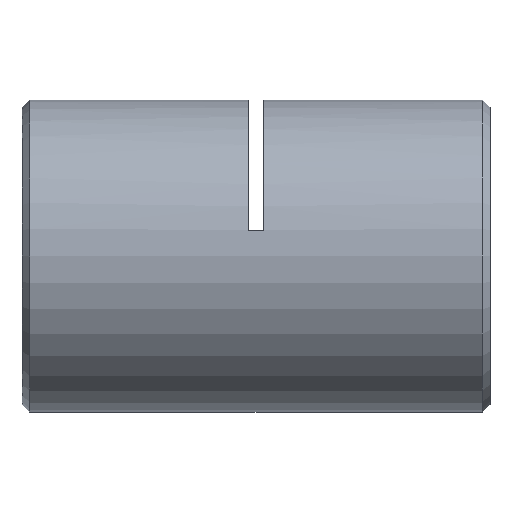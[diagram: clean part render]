
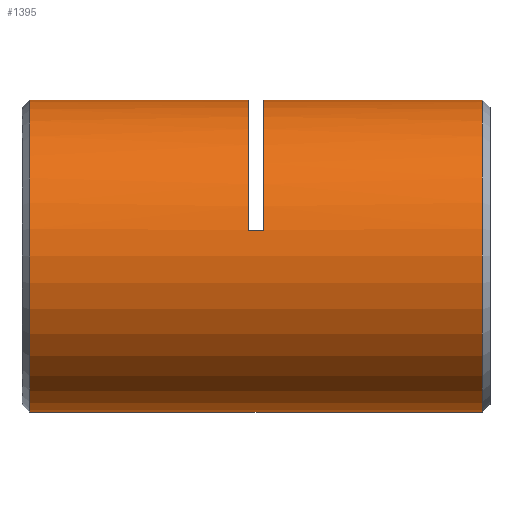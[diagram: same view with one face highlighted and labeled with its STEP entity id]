
A CAD part, left-side view. The second image highlights one B-rep face of the part: STEP entity #1395.
In plain terms, the highlighted cylindrical face has radius 10 mm (diameter 20 mm), a partial arc.
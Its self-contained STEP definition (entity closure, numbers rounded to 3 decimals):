
#9 = VERTEX_POINT ( 'NONE', #1312 ) ;
#283 = EDGE_CURVE ( 'NONE', #3445, #856, #2400, .T. ) ;
#304 = ORIENTED_EDGE ( 'NONE', *, *, #2097, .T. ) ;
#436 = ORIENTED_EDGE ( 'NONE', *, *, #3240, .F. ) ;
#672 = CARTESIAN_POINT ( 'NONE',  ( 0., 0., 10. ) ) ;
#827 = CIRCLE ( 'NONE', #3752, 10. ) ;
#828 = CARTESIAN_POINT ( 'NONE',  ( 0., 0.75, 0. ) ) ;
#851 = VERTEX_POINT ( 'NONE', #1382 ) ;
#856 = VERTEX_POINT ( 'NONE', #3131 ) ;
#871 = AXIS2_PLACEMENT_3D ( 'NONE', #2926, #3340, #1623 ) ;
#1086 = CARTESIAN_POINT ( 'NONE',  ( 0., 29.75, -10. ) ) ;
#1097 = ORIENTED_EDGE ( 'NONE', *, *, #2792, .F. ) ;
#1160 = DIRECTION ( 'NONE',  ( 0., 1., 0. ) ) ;
#1165 = CIRCLE ( 'NONE', #3870, 10. ) ;
#1204 = CARTESIAN_POINT ( 'NONE',  ( 0., 0., 10. ) ) ;
#1265 = DIRECTION ( 'NONE',  ( 0., 0., 1. ) ) ;
#1312 = CARTESIAN_POINT ( 'NONE',  ( 0., 0.75, -10. ) ) ;
#1335 = DIRECTION ( 'NONE',  ( 0., -1., 0. ) ) ;
#1352 = DIRECTION ( 'NONE',  ( 0., 0., -1. ) ) ;
#1382 = CARTESIAN_POINT ( 'NONE',  ( 0., 29.75, 10. ) ) ;
#1395 = ADVANCED_FACE ( 'NONE', ( #4907 ), #4228, .T. ) ;
#1482 = VECTOR ( 'NONE', #1608, 1000. ) ;
#1517 = CARTESIAN_POINT ( 'NONE',  ( 0., 14.75, 0. ) ) ;
#1526 = ORIENTED_EDGE ( 'NONE', *, *, #2230, .T. ) ;
#1608 = DIRECTION ( 'NONE',  ( 0., 1., 0. ) ) ;
#1623 = DIRECTION ( 'NONE',  ( 0., 0., 1. ) ) ;
#1722 = VERTEX_POINT ( 'NONE', #3562 ) ;
#1770 = LINE ( 'NONE', #672, #3213 ) ;
#1849 = VECTOR ( 'NONE', #1160, 1000. ) ;
#1910 = DIRECTION ( 'NONE',  ( 0., 0., 1. ) ) ;
#2097 = EDGE_CURVE ( 'NONE', #3023, #851, #1770, .T. ) ;
#2230 = EDGE_CURVE ( 'NONE', #9, #3445, #3623, .T. ) ;
#2400 = LINE ( 'NONE', #1204, #1849 ) ;
#2647 = CARTESIAN_POINT ( 'NONE',  ( 0., 15.75, 10. ) ) ;
#2792 = EDGE_CURVE ( 'NONE', #3741, #856, #1165, .T. ) ;
#2926 = CARTESIAN_POINT ( 'NONE',  ( 0., 0., 0. ) ) ;
#3023 = VERTEX_POINT ( 'NONE', #2647 ) ;
#3046 = ORIENTED_EDGE ( 'NONE', *, *, #4622, .T. ) ;
#3131 = CARTESIAN_POINT ( 'NONE',  ( 0., 14.75, 10. ) ) ;
#3153 = DIRECTION ( 'NONE',  ( 0., 1., 0. ) ) ;
#3158 = CARTESIAN_POINT ( 'NONE',  ( 0., 15.75, 0. ) ) ;
#3213 = VECTOR ( 'NONE', #3246, 1000. ) ;
#3240 = EDGE_CURVE ( 'NONE', #9, #5483, #3939, .T. ) ;
#3246 = DIRECTION ( 'NONE',  ( 0., 1., 0. ) ) ;
#3333 = VECTOR ( 'NONE', #3153, 1000. ) ;
#3340 = DIRECTION ( 'NONE',  ( 0., 1., 0. ) ) ;
#3341 = CIRCLE ( 'NONE', #3549, 10. ) ;
#3445 = VERTEX_POINT ( 'NONE', #3582 ) ;
#3549 = AXIS2_PLACEMENT_3D ( 'NONE', #3935, #1335, #1352 ) ;
#3562 = CARTESIAN_POINT ( 'NONE',  ( -9.86, 15.75, 1.667 ) ) ;
#3582 = CARTESIAN_POINT ( 'NONE',  ( 0., 0.75, 10. ) ) ;
#3599 = LINE ( 'NONE', #3982, #3333 ) ;
#3623 = CIRCLE ( 'NONE', #4632, 10. ) ;
#3637 = CARTESIAN_POINT ( 'NONE',  ( -9.86, 14.75, 1.667 ) ) ;
#3643 = EDGE_CURVE ( 'NONE', #3741, #1722, #3599, .T. ) ;
#3741 = VERTEX_POINT ( 'NONE', #3637 ) ;
#3752 = AXIS2_PLACEMENT_3D ( 'NONE', #3158, #4029, #1910 ) ;
#3853 = ORIENTED_EDGE ( 'NONE', *, *, #283, .T. ) ;
#3870 = AXIS2_PLACEMENT_3D ( 'NONE', #1517, #5000, #5100 ) ;
#3903 = DIRECTION ( 'NONE',  ( 0., 1., 0. ) ) ;
#3935 = CARTESIAN_POINT ( 'NONE',  ( 0., 29.75, 0. ) ) ;
#3939 = LINE ( 'NONE', #4212, #1482 ) ;
#3982 = CARTESIAN_POINT ( 'NONE',  ( -9.86, 15.25, 1.667 ) ) ;
#4029 = DIRECTION ( 'NONE',  ( 0., 1., 0. ) ) ;
#4212 = CARTESIAN_POINT ( 'NONE',  ( 0., 0., -10. ) ) ;
#4228 = CYLINDRICAL_SURFACE ( 'NONE', #871, 10. ) ;
#4364 = ORIENTED_EDGE ( 'NONE', *, *, #3643, .T. ) ;
#4622 = EDGE_CURVE ( 'NONE', #1722, #3023, #827, .T. ) ;
#4632 = AXIS2_PLACEMENT_3D ( 'NONE', #828, #3903, #1265 ) ;
#4863 = ORIENTED_EDGE ( 'NONE', *, *, #4897, .T. ) ;
#4897 = EDGE_CURVE ( 'NONE', #851, #5483, #3341, .T. ) ;
#4907 = FACE_OUTER_BOUND ( 'NONE', #5006, .T. ) ;
#5000 = DIRECTION ( 'NONE',  ( 0., 1., 0. ) ) ;
#5006 = EDGE_LOOP ( 'NONE', ( #436, #1526, #3853, #1097, #4364, #3046, #304, #4863 ) ) ;
#5100 = DIRECTION ( 'NONE',  ( 0., 0., 1. ) ) ;
#5483 = VERTEX_POINT ( 'NONE', #1086 ) ;
